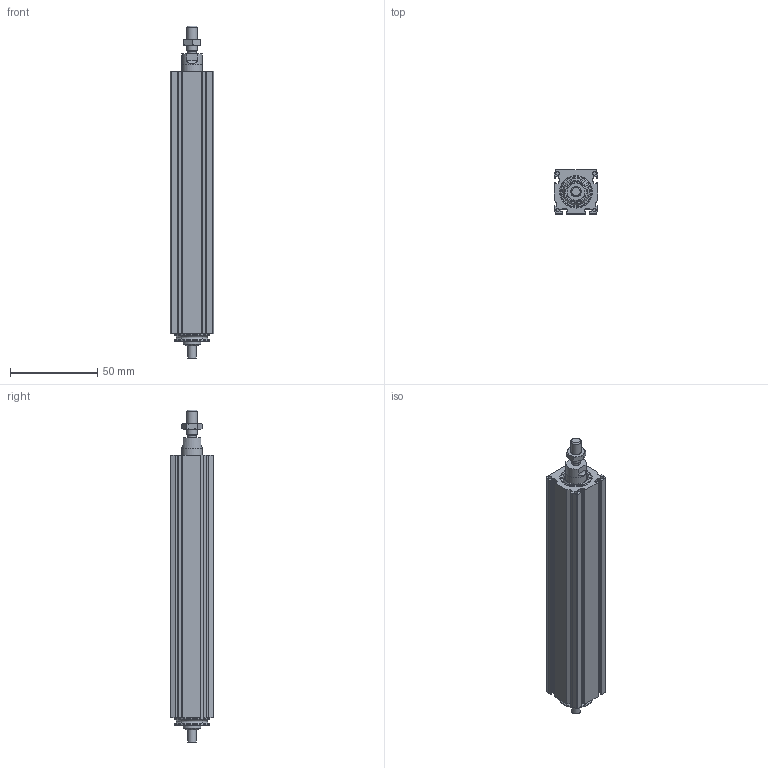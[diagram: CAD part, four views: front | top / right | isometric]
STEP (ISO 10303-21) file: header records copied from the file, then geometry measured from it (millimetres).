
FILE_DESCRIPTION(/* description */ ('STEP AP214'),/* implementation_level */ '2;1');
FILE_NAME(/* name */ 'MCE 25 0602 100 0(0)',/* time_stamp */ '2023-10-05T12:57:59+02:00',/* author */ ('License CC BY-ND 4.0'),/* organization */ ('CADENAS'),/* preprocessor_version */ 'ST-DEVELOPER v19.3',/* originating_system */ 'PARTsolutions',/* authorisation */ ' ');
FILE_SCHEMA (('AUTOMOTIVE_DESIGN {1 0 10303 214 3 1 1}'));
Length unit declared in the file: millimetre
Products named in the file (4): MCE 25 0602 100  0(0); 25_nut; 25(1000)_rod; 25(100)_msc
Assembly tree (3 placements, depth 2):
  MCE 25 0602 100  0(0)
    25_nut
    25(1000)_rod
    25(100)_msc
Bounding box: 25 x 25 x 190 mm (x, y, z)
Volume: 72193.4 mm3; surface area: 38787 mm2
Topology: 3 solids, 3 shells, 245 faces, 623 edges, 406 vertices
Faces by surface type: plane 110, cylinder 108, cone 23, torus 4
Full cylindrical faces by diameter (mm): 2.013 x8, 4.8 x1, 4.917 x1, 5 x1, 6 x1, 8 x1, 10 x1, 11.8 x1, 12 x2, 14.7 x1, 15.4 x1, 18 x1, 19 x2, 20 x2
Entity records: 7373 total; most frequent: CARTESIAN_POINT 1327, DIRECTION 1300, ORIENTED_EDGE 1164, EDGE_CURVE 582, AXIS2_PLACEMENT_3D 495, VERTEX_POINT 404, LINE 310, VECTOR 310
